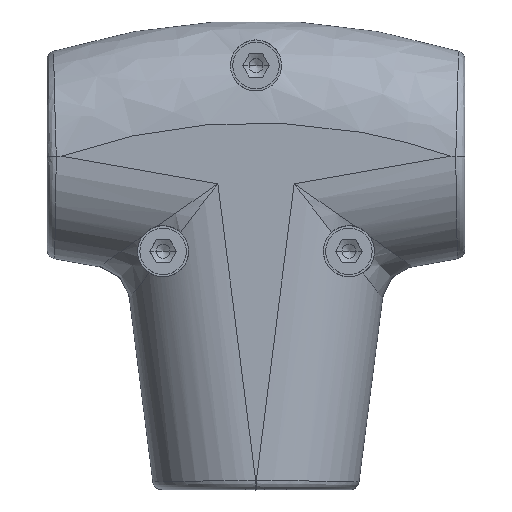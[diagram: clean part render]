
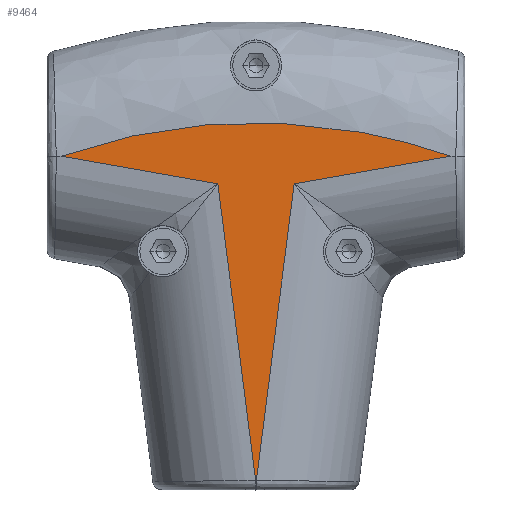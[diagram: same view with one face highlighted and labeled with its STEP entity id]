
A CAD part, top view. The second image highlights one B-rep face of the part: STEP entity #9464.
In plain terms, the highlighted planar face has unit normal (0, 0, 1).
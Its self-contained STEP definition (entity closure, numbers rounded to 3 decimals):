
#635 = CARTESIAN_POINT ( 'NONE',  ( -8.228, 65.851, 22. ) ) ;
#916 = CARTESIAN_POINT ( 'NONE',  ( -41.985, 71.808, 22. ) ) ;
#1018 = EDGE_CURVE ( 'NONE', #8216, #7801, #7772, .T. ) ;
#1158 = EDGE_CURVE ( 'NONE', #3288, #3586, #5449, .T. ) ;
#1481 = VECTOR ( 'NONE', #11369, 1000. ) ;
#2123 = PLANE ( 'NONE',  #8103 ) ;
#2247 = DIRECTION ( 'NONE',  ( 0.127, 0.992, 0. ) ) ;
#2448 = ORIENTED_EDGE ( 'NONE', *, *, #9069, .T. ) ;
#2664 = DIRECTION ( 'NONE',  ( 0.985, 0.174, 0. ) ) ;
#2690 = CARTESIAN_POINT ( 'NONE',  ( 14.548, 81.492, 22. ) ) ;
#2869 = VERTEX_POINT ( 'NONE', #8107 ) ;
#3258 = CARTESIAN_POINT ( 'NONE',  ( 41.985, 71.808, 22. ) ) ;
#3288 = VERTEX_POINT ( 'NONE', #5053 ) ;
#3391 = CARTESIAN_POINT ( 'NONE',  ( 0.077, 2., 22. ) ) ;
#3563 = CARTESIAN_POINT ( 'NONE',  ( 41.985, 71.808, 22. ) ) ;
#3586 = VERTEX_POINT ( 'NONE', #3258 ) ;
#3643 = EDGE_CURVE ( 'NONE', #7801, #3586, #9758, .T. ) ;
#3772 = DIRECTION ( 'NONE',  ( 0., 0., 1. ) ) ;
#3847 = FACE_OUTER_BOUND ( 'NONE', #10783, .T. ) ;
#3933 = CARTESIAN_POINT ( 'NONE',  ( 0.077, 2., 22. ) ) ;
#4125 = EDGE_CURVE ( 'NONE', #8216, #2869, #5314, .T. ) ;
#4165 = CARTESIAN_POINT ( 'NONE',  ( -8.228, 65.851, 22. ) ) ;
#4208 = DIRECTION ( 'NONE',  ( 0.985, -0.174, 0. ) ) ;
#4423 = CARTESIAN_POINT ( 'NONE',  ( 0., 2., 22. ) ) ;
#4577 = LINE ( 'NONE', #5990, #9113 ) ;
#4832 = DIRECTION ( 'NONE',  ( 1., 0., 0. ) ) ;
#5053 = CARTESIAN_POINT ( 'NONE',  ( -41.985, 71.808, 22. ) ) ;
#5100 = CARTESIAN_POINT ( 'NONE',  ( 8.228, 65.851, 22. ) ) ;
#5314 = LINE ( 'NONE', #4423, #5590 ) ;
#5351 = VECTOR ( 'NONE', #2664, 1000. ) ;
#5449 =( BOUNDED_CURVE ( )  B_SPLINE_CURVE ( 3, ( #916, #9972, #2690, #3563 ),
 .UNSPECIFIED., .F., .T. ) 
 B_SPLINE_CURVE_WITH_KNOTS ( ( 4, 4 ),
 ( 0., 1. ),
 .UNSPECIFIED. ) 
 CURVE ( )  GEOMETRIC_REPRESENTATION_ITEM ( )  RATIONAL_B_SPLINE_CURVE ( ( 1., 0.962, 0.962, 1. ) ) 
 REPRESENTATION_ITEM ( '' )  );
#5590 = VECTOR ( 'NONE', #9886, 1000. ) ;
#5990 = CARTESIAN_POINT ( 'NONE',  ( -41.985, 71.808, 22. ) ) ;
#6034 = EDGE_CURVE ( 'NONE', #7333, #2869, #6696, .T. ) ;
#6487 = ORIENTED_EDGE ( 'NONE', *, *, #3643, .T. ) ;
#6632 = VECTOR ( 'NONE', #2247, 1000. ) ;
#6696 = LINE ( 'NONE', #4165, #1481 ) ;
#6819 = ORIENTED_EDGE ( 'NONE', *, *, #1158, .F. ) ;
#7263 = ORIENTED_EDGE ( 'NONE', *, *, #4125, .F. ) ;
#7333 = VERTEX_POINT ( 'NONE', #635 ) ;
#7772 = LINE ( 'NONE', #3933, #6632 ) ;
#7801 = VERTEX_POINT ( 'NONE', #10314 ) ;
#7843 = ORIENTED_EDGE ( 'NONE', *, *, #6034, .T. ) ;
#8103 = AXIS2_PLACEMENT_3D ( 'NONE', #10290, #3772, #4832 ) ;
#8107 = CARTESIAN_POINT ( 'NONE',  ( -0.077, 2., 21.999 ) ) ;
#8216 = VERTEX_POINT ( 'NONE', #3391 ) ;
#9069 = EDGE_CURVE ( 'NONE', #3288, #7333, #4577, .T. ) ;
#9113 = VECTOR ( 'NONE', #4208, 1000. ) ;
#9464 = ADVANCED_FACE ( 'NONE', ( #3847 ), #2123, .T. ) ;
#9758 = LINE ( 'NONE', #5100, #5351 ) ;
#9886 = DIRECTION ( 'NONE',  ( -1., 0., 0. ) ) ;
#9972 = CARTESIAN_POINT ( 'NONE',  ( -14.548, 81.492, 22. ) ) ;
#10290 = CARTESIAN_POINT ( 'NONE',  ( 18.289, 53.088, 22. ) ) ;
#10314 = CARTESIAN_POINT ( 'NONE',  ( 8.228, 65.851, 22. ) ) ;
#10783 = EDGE_LOOP ( 'NONE', ( #2448, #7843, #7263, #11413, #6487, #6819 ) ) ;
#11369 = DIRECTION ( 'NONE',  ( 0.127, -0.992, 0. ) ) ;
#11413 = ORIENTED_EDGE ( 'NONE', *, *, #1018, .T. ) ;
